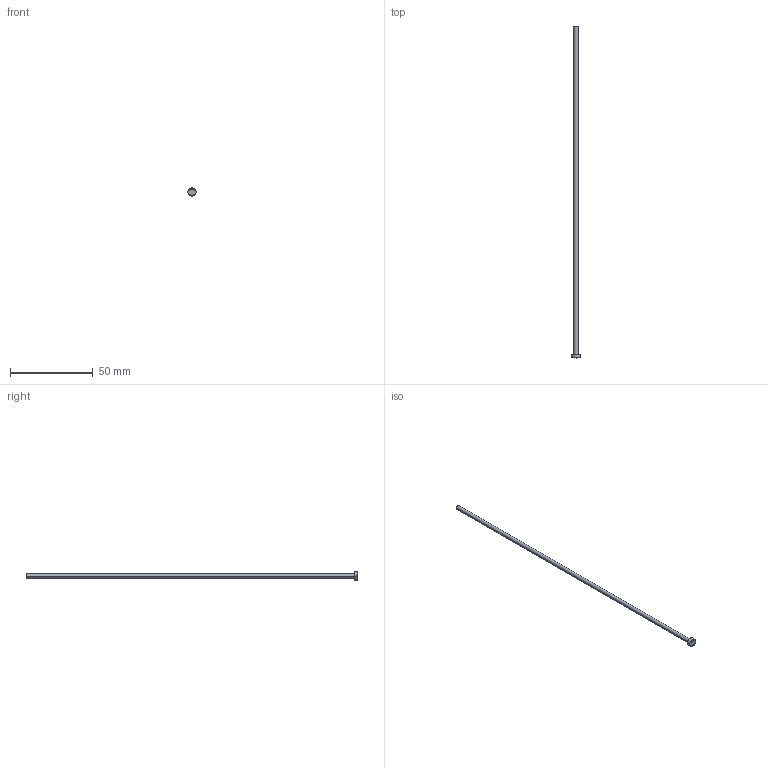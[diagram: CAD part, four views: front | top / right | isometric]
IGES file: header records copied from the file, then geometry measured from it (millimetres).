
Start section: SolidWorks IGES file using analytic representation for surfaces
Global section: file name: C:\Users\User\Downloads\Matripeça 31-08 tar\PB - PINO EXTRATOR TIPO _B_ (CATÁLOGO)\PB02,5\PB02,5200.IGS; native system: SolidWorks 2024; preprocessor: SolidWorks 2024; author: User; date: 260901.141100; units: millimetre
Bounding box: 5 x 200 x 5 mm (x, y, z)
Surface area: 1628.8 mm2 (no closed solid volume)
Topology: 0 solids, 0 shells, 404 faces, 3096 edges, 3096 vertices
Faces by surface type: bspline 390, revolution 14
